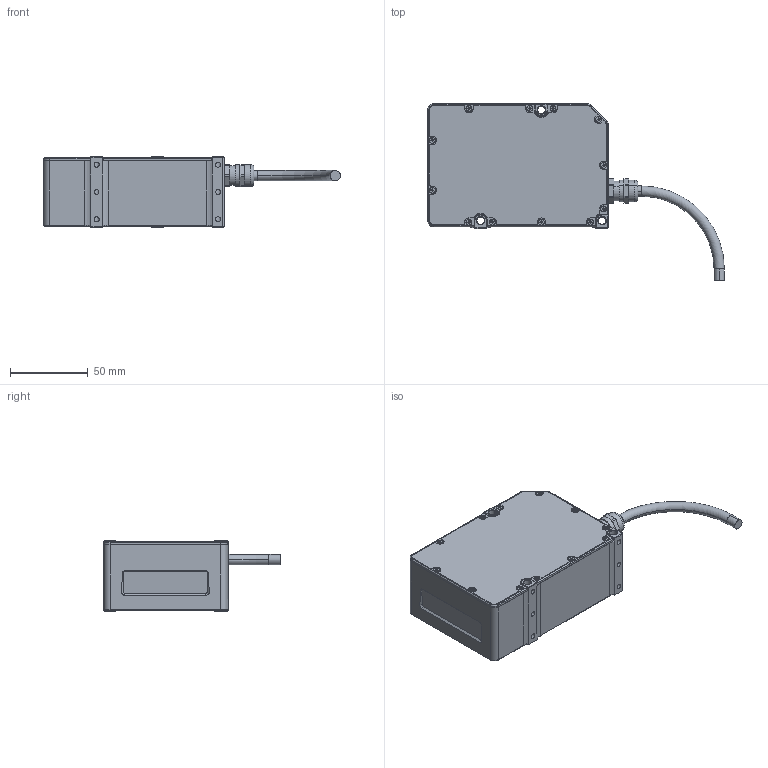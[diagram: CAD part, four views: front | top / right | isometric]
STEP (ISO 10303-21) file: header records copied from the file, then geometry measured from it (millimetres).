
FILE_DESCRIPTION (( 'STEP AP214' ), '1' );
FILE_NAME ('Empfänger.STEP', '2006-10-25T11:33:13', ( 'Bauer' ), ( 'Micro-Epsilon Optronic' ), 'SwSTEP 2.0', 'SolidWorks 2006104', '' );
FILE_SCHEMA (( 'AUTOMOTIVE_DESIGN' ));
Length unit declared in the file: millimetre
Products named in the file (1): Empfänger
Bounding box: 190.47 x 113.4 x 45 mm (x, y, z)
Volume: 107427.7 mm3; surface area: 114020.1 mm2
Topology: 21 solids, 21 shells, 1191 faces, 3111 edges, 1976 vertices
Faces by surface type: plane 574, cylinder 470, cone 108, torus 39
Entity records: 49955 total; most frequent: CARTESIAN_POINT 6626, DIRECTION 6472, ORIENTED_EDGE 6154, EDGE_CURVE 3077, AXIS2_PLACEMENT_3D 2233, VECTOR 2006, LINE 2006, VERTEX_POINT 1976
